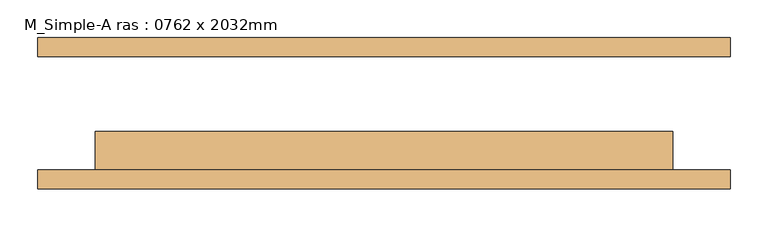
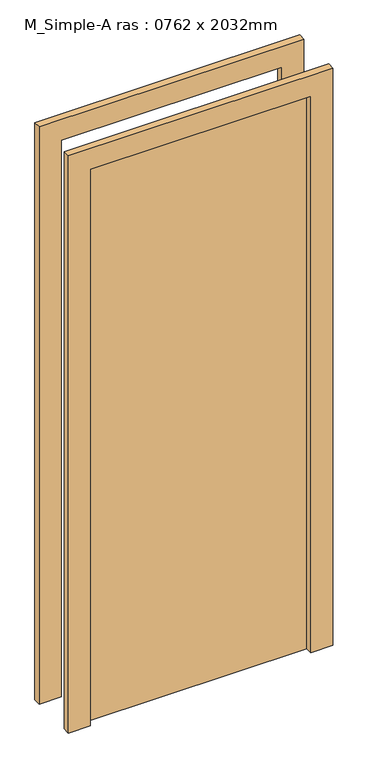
"""IFC4 building model written with IfcOpenShell, lengths in millimetres: door geometry, M_Simple-A ras : 0762 x 2032mm."""

from ifc_helpers import new_model, si_unit, frame, origin, origin_with_axes, place, context, project, spatial, polyline, outline, extrude, source, transform, mapped, element, save


def m_simple_a_ras_0762_x_2032mm_ffa3ef71(model_context):
    return source(origin(), model_context, "Body", "SweptSolid", [
        extrude(outline(polyline([(2108.0, -457.0), (0.0, -457.0), (0.0, -381.0), (2032.0, -381.0), (2032.0, 381.0), (0.0, 381.0), (0.0, 457.0), (2108.0, 457.0), (2108.0, -457.0)])), frame((0.0, -100.0, 0.0), z_axis=(0.0, 1.0, 0.0), x_axis=(0.0, 0.0, 1.0)), (0.0, 0.0, 1.0), 25.0),
        extrude(outline(polyline([(2108.0, 457.0), (2108.0, -457.0), (0.0, -457.0), (0.0, -381.0), (2032.0, -381.0), (2032.0, 381.0), (0.0, 381.0), (0.0, 457.0), (2108.0, 457.0)])), frame((0.0, 75.0, 0.0), z_axis=(0.0, 1.0, 0.0), x_axis=(0.0, 0.0, 1.0)), (0.0, 0.0, 1.0), 25.0),
        extrude(outline(polyline([(381.0, -24.0), (381.0, -75.0), (-381.0, -75.0), (-381.0, -24.0), (381.0, -24.0)])), origin_with_axes(), (0.0, 0.0, 1.0), 2032.0),
    ])


if __name__ == "__main__":
    model = new_model("IFC4")
    model_context = context("Model", 3, world=origin())
    ifc_project = project(units=[si_unit("LENGTHUNIT", "METRE", prefix="MILLI")], contexts=[model_context])
    site = spatial("IfcSite", under=ifc_project)
    building = spatial("IfcBuilding", under=site)
    placement = place(None, origin())
    m_simple_a_ras_0762_x_2032mm_shape = m_simple_a_ras_0762_x_2032mm_ffa3ef71(model_context)
    element("IfcDoor", 1, ObjectType="M_Simple-A ras : 0762 x 2032mm", at=placement, inside=building, context=model_context, shape_type="MappedRepresentation", body=[
        mapped(m_simple_a_ras_0762_x_2032mm_shape, transform((0.0, 0.0, 0.0), x_axis=(1.0, 0.0, 0.0), y_axis=(0.0, 1.0, 0.0), z_axis=(0.0, 0.0, 1.0))),
    ])
    save(model, "model.ifc")
